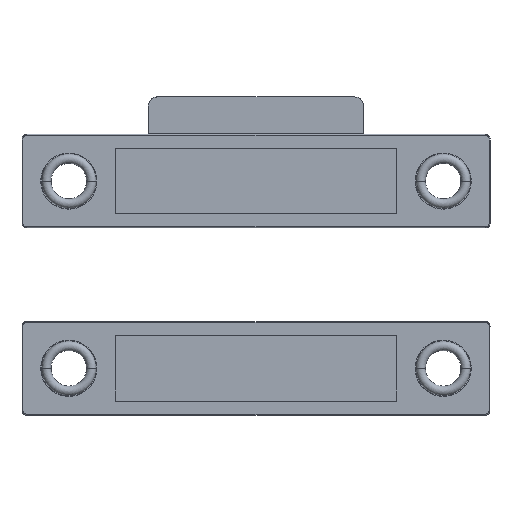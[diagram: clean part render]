
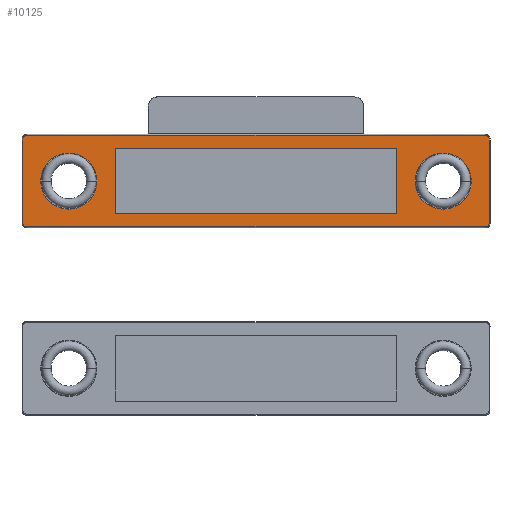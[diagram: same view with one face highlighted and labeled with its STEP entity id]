
A CAD part, front view. The second image highlights one B-rep face of the part: STEP entity #10125.
In plain terms, the highlighted planar face has unit normal (0, -1, 0).
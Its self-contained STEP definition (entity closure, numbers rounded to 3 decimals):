
#2190=CARTESIAN_POINT('',(24.5,-1.5,24.5));
#2191=DIRECTION('',(0.,1.,0.));
#2192=DIRECTION('',(0.,0.,1.));
#2193=AXIS2_PLACEMENT_3D('',#2190,#2191,#2192);
#2195=CARTESIAN_POINT('',(24.5,-1.5,15.5));
#2196=DIRECTION('',(0.,1.,0.));
#2197=DIRECTION('',(1.,0.,0.));
#2198=AXIS2_PLACEMENT_3D('',#2195,#2196,#2197);
#2200=CARTESIAN_POINT('',(-24.5,-1.5,15.5));
#2201=DIRECTION('',(0.,1.,0.));
#2202=DIRECTION('',(0.,0.,-1.));
#2203=AXIS2_PLACEMENT_3D('',#2200,#2201,#2202);
#2205=CARTESIAN_POINT('',(-24.5,-1.5,24.5));
#2206=DIRECTION('',(0.,1.,0.));
#2207=DIRECTION('',(-1.,0.,0.));
#2208=AXIS2_PLACEMENT_3D('',#2205,#2206,#2207);
#2210=CARTESIAN_POINT('',(20.,-1.5,20.));
#2211=DIRECTION('',(0.,-1.,0.));
#2212=DIRECTION('',(1.,0.,0.));
#2213=AXIS2_PLACEMENT_3D('',#2210,#2211,#2212);
#2215=CARTESIAN_POINT('',(20.,-1.5,20.));
#2216=DIRECTION('',(0.,-1.,0.));
#2217=DIRECTION('',(-1.,0.,0.));
#2218=AXIS2_PLACEMENT_3D('',#2215,#2216,#2217);
#2220=CARTESIAN_POINT('',(-20.,-1.5,20.));
#2221=DIRECTION('',(0.,-1.,0.));
#2222=DIRECTION('',(1.,0.,0.));
#2223=AXIS2_PLACEMENT_3D('',#2220,#2221,#2222);
#2225=CARTESIAN_POINT('',(-20.,-1.5,20.));
#2226=DIRECTION('',(0.,-1.,0.));
#2227=DIRECTION('',(-1.,0.,0.));
#2228=AXIS2_PLACEMENT_3D('',#2225,#2226,#2227);
#2245=DIRECTION('',(-1.,0.,0.));
#2246=VECTOR('',#2245,49.);
#2247=CARTESIAN_POINT('',(24.5,-1.5,24.9));
#2248=LINE('',#2247,#2246);
#2253=DIRECTION('',(0.,0.,1.));
#2254=VECTOR('',#2253,9.);
#2255=CARTESIAN_POINT('',(24.9,-1.5,15.5));
#2256=LINE('',#2255,#2254);
#2416=DIRECTION('',(1.,0.,0.));
#2417=VECTOR('',#2416,49.);
#2418=CARTESIAN_POINT('',(-24.5,-1.5,15.1));
#2419=LINE('',#2418,#2417);
#2439=DIRECTION('',(0.,0.,-1.));
#2440=VECTOR('',#2439,9.);
#2441=CARTESIAN_POINT('',(-24.9,-1.5,24.5));
#2442=LINE('',#2441,#2440);
#2990=DIRECTION('',(0.,0.,1.));
#2991=VECTOR('',#2990,7.);
#2992=CARTESIAN_POINT('',(-15.,-1.5,16.5));
#2993=LINE('',#2992,#2991);
#2998=DIRECTION('',(1.,0.,0.));
#2999=VECTOR('',#2998,30.);
#3000=CARTESIAN_POINT('',(-15.,-1.5,23.5));
#3001=LINE('',#3000,#2999);
#3006=DIRECTION('',(0.,0.,-1.));
#3007=VECTOR('',#3006,7.);
#3008=CARTESIAN_POINT('',(15.,-1.5,23.5));
#3009=LINE('',#3008,#3007);
#3014=DIRECTION('',(-1.,0.,0.));
#3015=VECTOR('',#3014,30.);
#3016=CARTESIAN_POINT('',(15.,-1.5,16.5));
#3017=LINE('',#3016,#3015);
#5743=CARTESIAN_POINT('',(-24.9,-1.5,24.5));
#5744=CARTESIAN_POINT('',(-24.5,-1.5,24.9));
#5745=VERTEX_POINT('',#5743);
#5746=VERTEX_POINT('',#5744);
#5747=CARTESIAN_POINT('',(24.5,-1.5,24.9));
#5748=CARTESIAN_POINT('',(24.9,-1.5,24.5));
#5749=VERTEX_POINT('',#5747);
#5750=VERTEX_POINT('',#5748);
#5751=CARTESIAN_POINT('',(24.9,-1.5,15.5));
#5752=VERTEX_POINT('',#5751);
#5753=CARTESIAN_POINT('',(24.5,-1.5,15.1));
#5754=VERTEX_POINT('',#5753);
#5755=CARTESIAN_POINT('',(-24.5,-1.5,15.1));
#5756=VERTEX_POINT('',#5755);
#5757=CARTESIAN_POINT('',(-24.9,-1.5,15.5));
#5758=VERTEX_POINT('',#5757);
#5759=CARTESIAN_POINT('',(23.,-1.5,20.));
#5760=CARTESIAN_POINT('',(17.,-1.5,20.));
#5761=VERTEX_POINT('',#5759);
#5762=VERTEX_POINT('',#5760);
#5763=CARTESIAN_POINT('',(-15.,-1.5,16.5));
#5764=CARTESIAN_POINT('',(-15.,-1.5,23.5));
#5765=VERTEX_POINT('',#5763);
#5766=VERTEX_POINT('',#5764);
#5767=CARTESIAN_POINT('',(15.,-1.5,16.5));
#5768=VERTEX_POINT('',#5767);
#5769=CARTESIAN_POINT('',(15.,-1.5,23.5));
#5770=VERTEX_POINT('',#5769);
#5771=CARTESIAN_POINT('',(-17.,-1.5,20.));
#5772=CARTESIAN_POINT('',(-23.,-1.5,20.));
#5773=VERTEX_POINT('',#5771);
#5774=VERTEX_POINT('',#5772);
#10081=CARTESIAN_POINT('',(0.,-1.5,20.));
#10082=DIRECTION('',(0.,1.,0.));
#10083=DIRECTION('',(1.,0.,0.));
#10084=AXIS2_PLACEMENT_3D('',#10081,#10082,#10083);
#10085=PLANE('',#10084);
#10087=ORIENTED_EDGE('',*,*,#10086,.T.);
#10089=ORIENTED_EDGE('',*,*,#10088,.F.);
#10091=ORIENTED_EDGE('',*,*,#10090,.T.);
#10093=ORIENTED_EDGE('',*,*,#10092,.F.);
#10095=ORIENTED_EDGE('',*,*,#10094,.T.);
#10097=ORIENTED_EDGE('',*,*,#10096,.F.);
#10098=ORIENTED_EDGE('',*,*,#10071,.T.);
#10100=ORIENTED_EDGE('',*,*,#10099,.F.);
#10101=EDGE_LOOP('',(#10087,#10089,#10091,#10093,#10095,#10097,#10098,#10100));
#10102=FACE_OUTER_BOUND('',#10101,.F.);
#10104=ORIENTED_EDGE('',*,*,#10103,.T.);
#10106=ORIENTED_EDGE('',*,*,#10105,.T.);
#10107=EDGE_LOOP('',(#10104,#10106));
#10108=FACE_BOUND('',#10107,.F.);
#10110=ORIENTED_EDGE('',*,*,#10109,.F.);
#10112=ORIENTED_EDGE('',*,*,#10111,.F.);
#10114=ORIENTED_EDGE('',*,*,#10113,.F.);
#10116=ORIENTED_EDGE('',*,*,#10115,.F.);
#10117=EDGE_LOOP('',(#10110,#10112,#10114,#10116));
#10118=FACE_BOUND('',#10117,.F.);
#10120=ORIENTED_EDGE('',*,*,#10119,.T.);
#10122=ORIENTED_EDGE('',*,*,#10121,.T.);
#10123=EDGE_LOOP('',(#10120,#10122));
#10124=FACE_BOUND('',#10123,.F.);
#10125=ADVANCED_FACE('',(#10102,#10108,#10118,#10124),#10085,.F.);
#2194=CIRCLE('',#2193,0.4);
#2199=CIRCLE('',#2198,0.4);
#2204=CIRCLE('',#2203,0.4);
#2209=CIRCLE('',#2208,0.4);
#2214=CIRCLE('',#2213,3.);
#2219=CIRCLE('',#2218,3.);
#2224=CIRCLE('',#2223,3.);
#2229=CIRCLE('',#2228,3.);
#10071=EDGE_CURVE('',#5745,#5746,#2209,.T.);
#10086=EDGE_CURVE('',#5749,#5750,#2194,.T.);
#10088=EDGE_CURVE('',#5752,#5750,#2256,.T.);
#10090=EDGE_CURVE('',#5752,#5754,#2199,.T.);
#10092=EDGE_CURVE('',#5756,#5754,#2419,.T.);
#10094=EDGE_CURVE('',#5756,#5758,#2204,.T.);
#10096=EDGE_CURVE('',#5745,#5758,#2442,.T.);
#10099=EDGE_CURVE('',#5749,#5746,#2248,.T.);
#10103=EDGE_CURVE('',#5761,#5762,#2214,.T.);
#10105=EDGE_CURVE('',#5762,#5761,#2219,.T.);
#10109=EDGE_CURVE('',#5765,#5766,#2993,.T.);
#10111=EDGE_CURVE('',#5768,#5765,#3017,.T.);
#10113=EDGE_CURVE('',#5770,#5768,#3009,.T.);
#10115=EDGE_CURVE('',#5766,#5770,#3001,.T.);
#10119=EDGE_CURVE('',#5773,#5774,#2224,.T.);
#10121=EDGE_CURVE('',#5774,#5773,#2229,.T.);
